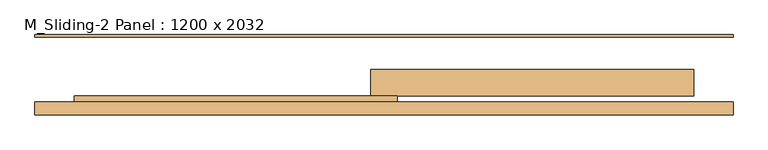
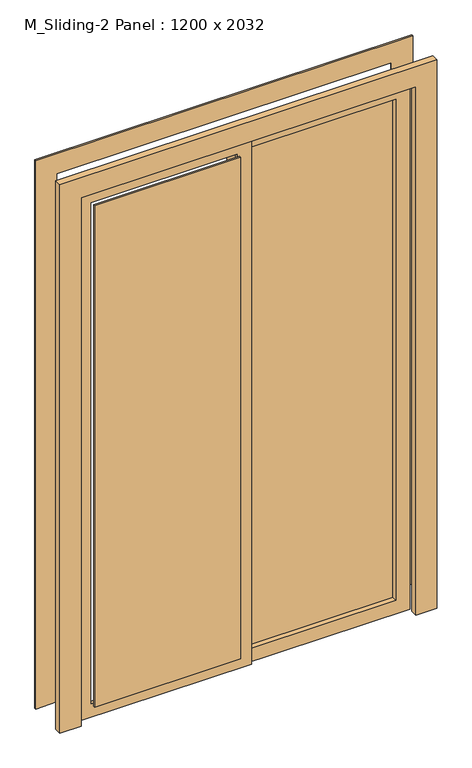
"""IFC4 building model written with IfcOpenShell, lengths in millimetres: door geometry, M_Sliding-2 Panel : 1200 x 2032."""

from ifc_helpers import new_model, si_unit, frame, origin, place, context, project, spatial, polyline, outline, extrude, source, transform, mapped, element, save


def m_sliding_2_panel_1200_x_2032_f091e990(model_context):
    return source(origin(), model_context, "Body", "SweptSolid", [
        extrude(outline(polyline([(2000.0, 25.4), (2000.0, -600.0), (0.0, -600.0), (0.0, 25.4), (2000.0, 25.4)]), holes=[polyline([(1949.0, -25.6), (51.0, -25.6), (51.0, -549.0), (1949.0, -549.0), (1949.0, -25.6)])]), frame((0.0, -189.5, 0.0), z_axis=(0.0, 1.0, 0.0), x_axis=(0.0, 0.0, 1.0)), (0.0, 0.0, 1.0), 11.7),
        extrude(outline(polyline([(0.0, -676.0), (0.0, -600.0), (2000.0, -600.0), (2000.0, 600.0), (0.0, 600.0), (0.0, 676.0), (2076.0, 676.0), (2076.0, -676.0), (0.0, -676.0)])), frame((0.0, -64.5, 0.0), z_axis=(0.0, 1.0, 0.0), x_axis=(0.0, 0.0, 1.0)), (0.0, 0.0, 1.0), 5.0),
        extrude(outline(polyline([(0.0, 676.0), (2076.0, 676.0), (2076.0, -676.0), (0.0, -676.0), (0.0, -600.0), (2000.0, -600.0), (2000.0, 600.0), (0.0, 600.0), (0.0, 676.0)])), frame((0.0, -214.9, 0.0), z_axis=(0.0, 1.0, 0.0), x_axis=(0.0, 0.0, 1.0)), (0.0, 0.0, 1.0), 25.0),
        extrude(outline(polyline([(549.0, -153.19375), (549.0, -159.54375), (25.6, -159.54375), (25.6, -153.19375), (549.0, -153.19375)])), frame((0.0, 0.0, 51.0), z_axis=(0.0, 0.0, 1.0), x_axis=(1.0, 0.0, 0.0)), (0.0, 0.0, 1.0), 1898.0),
        extrude(outline(polyline([(-25.6, -203.2), (-25.6, -209.55), (-549.0, -209.55), (-549.0, -203.2), (-25.6, -203.2)])), frame((0.0, 0.0, 51.0), z_axis=(0.0, 0.0, 1.0), x_axis=(1.0, 0.0, 0.0)), (0.0, 0.0, 1.0), 1898.0),
        extrude(outline(polyline([(2000.0, -25.4), (0.0, -25.4), (0.0, 600.0), (2000.0, 600.0), (2000.0, -25.4)]), holes=[polyline([(1949.0, 25.6), (1949.0, 549.0), (51.0, 549.0), (51.0, 25.6), (1949.0, 25.6)])]), frame((0.0, -177.8, 0.0), z_axis=(0.0, 1.0, 0.0), x_axis=(0.0, 0.0, 1.0)), (0.0, 0.0, 1.0), 50.8),
    ])


if __name__ == "__main__":
    model = new_model("IFC4")
    model_context = context("Model", 3, world=origin())
    ifc_project = project(units=[si_unit("LENGTHUNIT", "METRE", prefix="MILLI")], contexts=[model_context])
    site = spatial("IfcSite", under=ifc_project)
    building = spatial("IfcBuilding", under=site)
    placement = place(None, origin())
    m_sliding_2_panel_1200_x_2032_shape = m_sliding_2_panel_1200_x_2032_f091e990(model_context)
    element("IfcDoor", 1, ObjectType="M_Sliding-2 Panel : 1200 x 2032", at=placement, inside=building, context=model_context, shape_type="MappedRepresentation", body=[
        mapped(m_sliding_2_panel_1200_x_2032_shape, transform((0.0, 0.0, 0.0), x_axis=(1.0, 0.0, 0.0), y_axis=(0.0, 1.0, 0.0), z_axis=(0.0, 0.0, 1.0))),
    ])
    save(model, "model.ifc")
